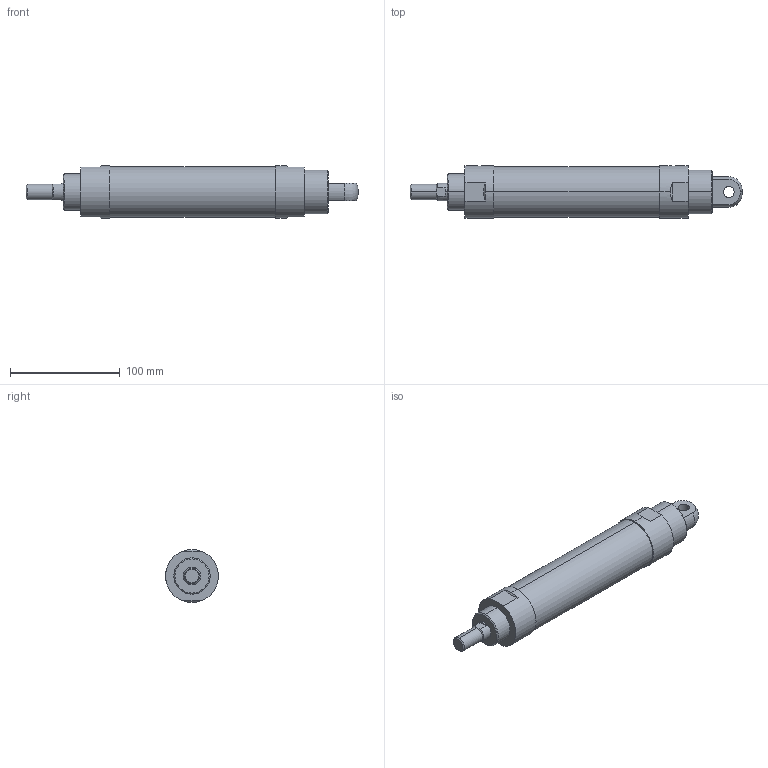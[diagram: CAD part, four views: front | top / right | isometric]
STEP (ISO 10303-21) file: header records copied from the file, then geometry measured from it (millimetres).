
FILE_DESCRIPTION (( 'STEP AP203' ), '1' );
FILE_NAME ('J#2-40-100-C.STEP', '2016-03-08T07:57:45', ( '' ), ( '' ), 'SwSTEP 2.0', 'SolidWorks 2014', '' );
FILE_SCHEMA (( 'CONFIG_CONTROL_DESIGN' ));
Length unit declared in the file: millimetre
Products named in the file (1): J#2-40-100-C
Bounding box: 302 x 48 x 48 mm (x, y, z)
Volume: 396978.7 mm3; surface area: 42696.4 mm2
Topology: 1 solids, 1 shells, 59 faces, 138 edges, 85 vertices
Faces by surface type: cylinder 22, plane 20, cone 15, torus 2
Entity records: 1988 total; most frequent: CARTESIAN_POINT 566, DIRECTION 293, ORIENTED_EDGE 268, EDGE_CURVE 134, AXIS2_PLACEMENT_3D 118, VERTEX_POINT 85, EDGE_LOOP 69, ADVANCED_FACE 59
